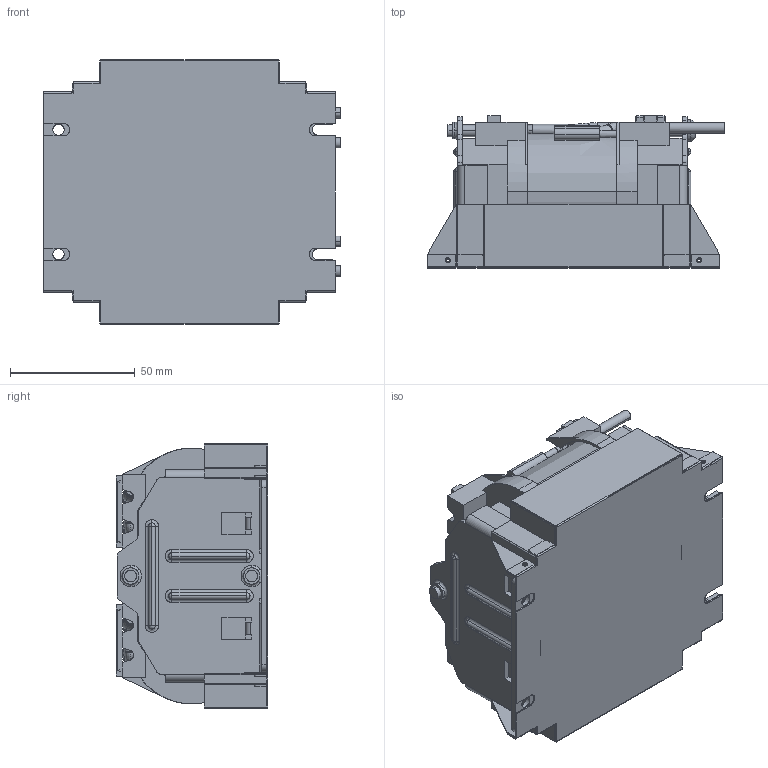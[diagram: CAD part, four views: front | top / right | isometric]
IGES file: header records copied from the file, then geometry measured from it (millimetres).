
Start section: SolidWorks IGES file using analytic representation for surfaces
Global section: file name: 34H\\10.106.230.1\R&D File\05_COMP\02_Mechanical\10_Others\PV_RT 81\网络用3D模型\半灌封模型\4KW_G_ACL\SF14225B-GM00DS20R(M-4KW_ACL-G).IGS; native system: SolidWorks 2009; preprocessor: SolidWorks 2009; author: Administrator; date: 120508.162637; units: millimetre
Bounding box: 119 x 60.9 x 106 mm (x, y, z)
Surface area: 164454.4 mm2 (no closed solid volume)
Topology: 0 solids, 0 shells, 1157 faces, 9319 edges, 9296 vertices
Faces by surface type: bspline 765, revolution 392
